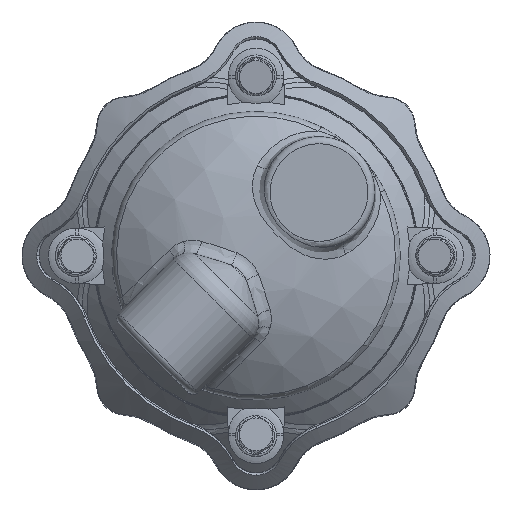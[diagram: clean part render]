
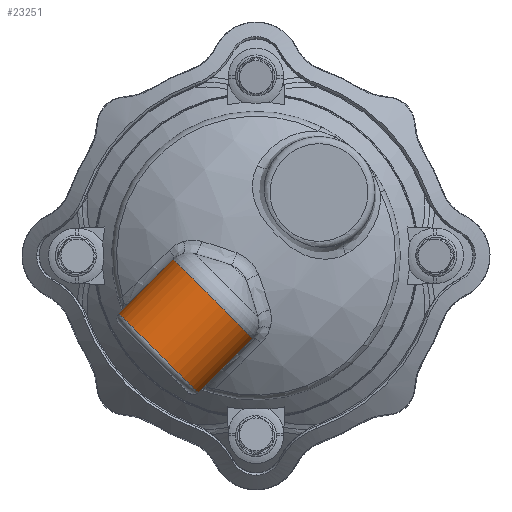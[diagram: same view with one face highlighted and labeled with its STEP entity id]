
A CAD part, top view. The second image highlights one B-rep face of the part: STEP entity #23251.
In plain terms, the highlighted cylindrical face has radius 40.5 mm (diameter 81 mm), a partial arc.
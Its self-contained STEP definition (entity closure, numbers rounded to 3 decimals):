
#689 = CARTESIAN_POINT ( 'NONE',  ( -35.126, -92.402, 40.5 ) ) ;
#825 = CARTESIAN_POINT ( 'NONE',  ( -60.056, -2.78, 40.5 ) ) ;
#885 = CARTESIAN_POINT ( 'NONE',  ( -2.78, -60.056, 40.5 ) ) ;
#917 = CARTESIAN_POINT ( 'NONE',  ( -43.736, -97.96, 27.458 ) ) ;
#1068 = CARTESIAN_POINT ( 'NONE',  ( -97.96, -43.736, 27.458 ) ) ;
#5313 = EDGE_CURVE ( 'NONE', #7609, #7339, #19163, .T. ) ;
#5321 = EDGE_CURVE ( 'NONE', #7339, #7864, #8626, .T. ) ;
#5369 = EDGE_CURVE ( 'NONE', #7704, #7474, #8774, .T. ) ;
#5407 = EDGE_CURVE ( 'NONE', #7670, #7609, #19221, .T. ) ;
#5457 = EDGE_CURVE ( 'NONE', #7474, #7670, #19256, .T. ) ;
#5458 = EDGE_CURVE ( 'NONE', #7864, #7704, #19261, .T. ) ;
#5560 = AXIS2_PLACEMENT_3D ( 'NONE', #16470, #16471, #16472 ) ;
#5582 = AXIS2_PLACEMENT_3D ( 'NONE', #17043, #17045, #17047 ) ;
#7228 = EDGE_LOOP ( 'NONE', ( #10781, #10782, #10783, #10784, #10785, #10786 ) ) ;
#7339 = VERTEX_POINT ( 'NONE', #18357 ) ;
#7474 = VERTEX_POINT ( 'NONE', #689 ) ;
#7609 = VERTEX_POINT ( 'NONE', #825 ) ;
#7670 = VERTEX_POINT ( 'NONE', #885 ) ;
#7704 = VERTEX_POINT ( 'NONE', #917 ) ;
#7864 = VERTEX_POINT ( 'NONE', #1068 ) ;
#8626 = B_SPLINE_CURVE_WITH_KNOTS ( 'NONE', 3,
 ( #22100, #22095, #22096, #22101, #22102, #22103, #22104, #22105, #22106, #22107, #22108, #22109, #22110 ),
 .UNSPECIFIED., .F., .F.,
 ( 4, 2, 1, 2, 2, 2, 4 ),
 ( 0., 0., 0.001, 0.002, 0.004, 0.008, 0.017 ),
 .UNSPECIFIED. ) ;
#8774 = B_SPLINE_CURVE_WITH_KNOTS ( 'NONE', 3,
 ( #22380, #22389, #22397, #22398, #22399, #22400, #22401, #22402, #22403, #22404, #22405, #22406, #22407 ),
 .UNSPECIFIED., .F., .F.,
 ( 4, 2, 2, 2, 1, 2, 4 ),
 ( 0., 0.008, 0.012, 0.015, 0.016, 0.016, 0.017 ),
 .UNSPECIFIED. ) ;
#10781 = ORIENTED_EDGE ( 'NONE', *, *, #5313, .T. ) ;
#10782 = ORIENTED_EDGE ( 'NONE', *, *, #5321, .T. ) ;
#10783 = ORIENTED_EDGE ( 'NONE', *, *, #5458, .T. ) ;
#10784 = ORIENTED_EDGE ( 'NONE', *, *, #5369, .T. ) ;
#10785 = ORIENTED_EDGE ( 'NONE', *, *, #5457, .T. ) ;
#10786 = ORIENTED_EDGE ( 'NONE', *, *, #5407, .T. ) ;
#11439 = FACE_OUTER_BOUND ( 'NONE', #7228, .T. ) ;
#11442 = CYLINDRICAL_SURFACE ( 'NONE', #12806, 40.5 ) ;
#12806 = AXIS2_PLACEMENT_3D ( 'NONE', #19909, #19907, #19905 ) ;
#16470 = CARTESIAN_POINT ( 'NONE',  ( -31.418, -31.418, 40.5 ) ) ;
#16471 = DIRECTION ( 'NONE',  ( -0.707, -0.707, 0. ) ) ;
#16472 = DIRECTION ( 'NONE',  ( 0.707, -0.707, 0. ) ) ;
#16996 = DIRECTION ( 'NONE',  ( 0.707, 0.707, 0. ) ) ;
#17028 = CARTESIAN_POINT ( 'NONE',  ( -40.012, -97.287, 40.5 ) ) ;
#17043 = CARTESIAN_POINT ( 'NONE',  ( -70.848, -70.848, 40.5 ) ) ;
#17045 = DIRECTION ( 'NONE',  ( 0.707, 0.707, 0. ) ) ;
#17047 = DIRECTION ( 'NONE',  ( -0.707, 0.707, 0. ) ) ;
#18357 = CARTESIAN_POINT ( 'NONE',  ( -92.402, -35.126, 40.5 ) ) ;
#19163 = LINE ( 'NONE', #22034, #19166 ) ;
#19166 = VECTOR ( 'NONE', #22045, 1000. ) ;
#19221 = CIRCLE ( 'NONE', #5560, 40.5 ) ;
#19256 = LINE ( 'NONE', #17028, #19262 ) ;
#19261 = CIRCLE ( 'NONE', #5582, 40.5 ) ;
#19262 = VECTOR ( 'NONE', #16996, 1000. ) ;
#19905 = DIRECTION ( 'NONE',  ( -0.707, 0.707, 0. ) ) ;
#19907 = DIRECTION ( 'NONE',  ( 0.707, 0.707, 0. ) ) ;
#19909 = CARTESIAN_POINT ( 'NONE',  ( -10.54, -10.54, 40.5 ) ) ;
#22034 = CARTESIAN_POINT ( 'NONE',  ( -53.524, 3.752, 40.5 ) ) ;
#22045 = DIRECTION ( 'NONE',  ( -0.707, -0.707, 0. ) ) ;
#22095 = CARTESIAN_POINT ( 'NONE',  ( -92.477, -35.201, 40.364 ) ) ;
#22096 = CARTESIAN_POINT ( 'NONE',  ( -92.553, -35.278, 40.226 ) ) ;
#22100 = CARTESIAN_POINT ( 'NONE',  ( -92.402, -35.126, 40.5 ) ) ;
#22101 = CARTESIAN_POINT ( 'NONE',  ( -92.703, -35.432, 39.952 ) ) ;
#22102 = CARTESIAN_POINT ( 'NONE',  ( -92.927, -35.665, 39.542 ) ) ;
#22103 = CARTESIAN_POINT ( 'NONE',  ( -93.145, -35.901, 39.131 ) ) ;
#22104 = CARTESIAN_POINT ( 'NONE',  ( -93.576, -36.379, 38.312 ) ) ;
#22105 = CARTESIAN_POINT ( 'NONE',  ( -93.855, -36.704, 37.767 ) ) ;
#22106 = CARTESIAN_POINT ( 'NONE',  ( -94.664, -37.701, 36.133 ) ) ;
#22107 = CARTESIAN_POINT ( 'NONE',  ( -95.168, -38.393, 35.046 ) ) ;
#22108 = CARTESIAN_POINT ( 'NONE',  ( -96.57, -40.548, 31.792 ) ) ;
#22109 = CARTESIAN_POINT ( 'NONE',  ( -97.357, -42.088, 29.629 ) ) ;
#22110 = CARTESIAN_POINT ( 'NONE',  ( -97.96, -43.736, 27.458 ) ) ;
#22380 = CARTESIAN_POINT ( 'NONE',  ( -43.736, -97.96, 27.458 ) ) ;
#22389 = CARTESIAN_POINT ( 'NONE',  ( -42.088, -97.357, 29.629 ) ) ;
#22397 = CARTESIAN_POINT ( 'NONE',  ( -40.548, -96.57, 31.792 ) ) ;
#22398 = CARTESIAN_POINT ( 'NONE',  ( -38.393, -95.168, 35.046 ) ) ;
#22399 = CARTESIAN_POINT ( 'NONE',  ( -37.701, -94.664, 36.133 ) ) ;
#22400 = CARTESIAN_POINT ( 'NONE',  ( -36.704, -93.855, 37.767 ) ) ;
#22401 = CARTESIAN_POINT ( 'NONE',  ( -36.379, -93.576, 38.312 ) ) ;
#22402 = CARTESIAN_POINT ( 'NONE',  ( -35.901, -93.145, 39.131 ) ) ;
#22403 = CARTESIAN_POINT ( 'NONE',  ( -35.665, -92.927, 39.542 ) ) ;
#22404 = CARTESIAN_POINT ( 'NONE',  ( -35.432, -92.703, 39.952 ) ) ;
#22405 = CARTESIAN_POINT ( 'NONE',  ( -35.278, -92.553, 40.226 ) ) ;
#22406 = CARTESIAN_POINT ( 'NONE',  ( -35.201, -92.477, 40.364 ) ) ;
#22407 = CARTESIAN_POINT ( 'NONE',  ( -35.126, -92.402, 40.5 ) ) ;
#23251 = ADVANCED_FACE ( 'NONE', ( #11439 ), #11442, .T. ) ;
